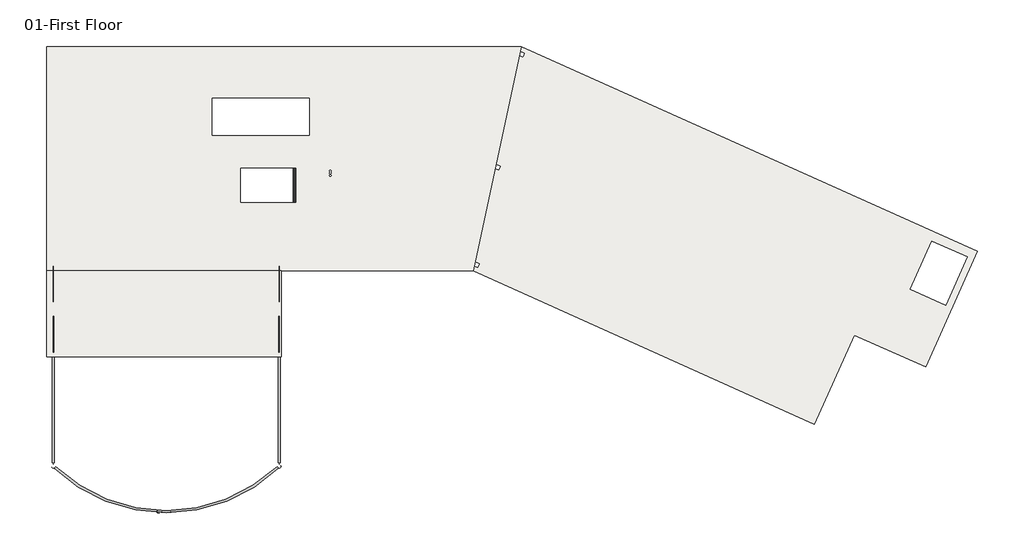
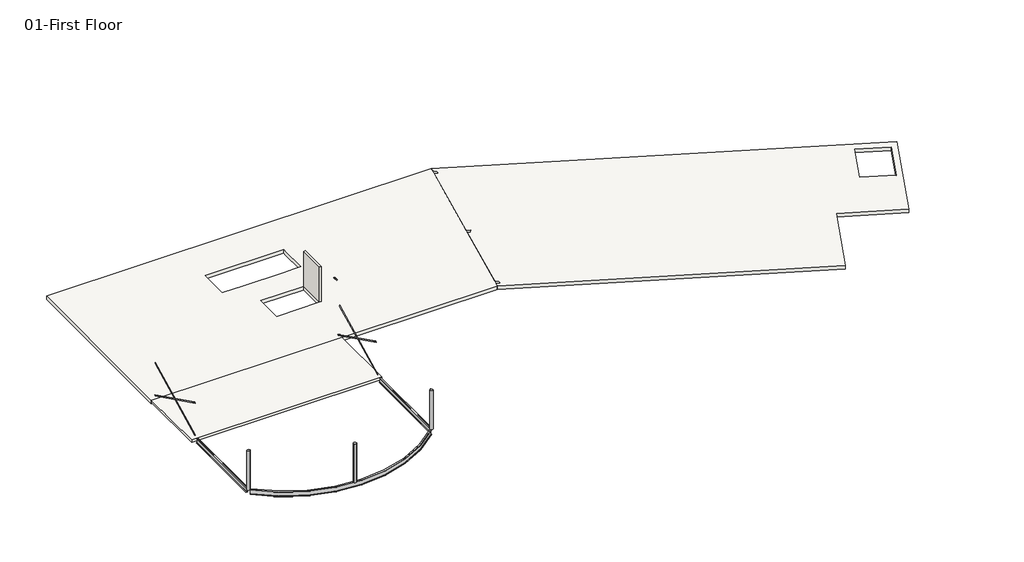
# One storey: 5 beams, 4 members, 3 columns, 3 slabs, 1 wall.
"""IFC4 building model written with IfcOpenShell, lengths in millimetres."""

import ifcopenshell
import ifcopenshell.guid

model = None  # the IFC model being written
_history = None  # IfcOwnerHistory: only IFC2X3 demands one
_inside = {}  # id of a spatial element -> (the spatial element, [elements in it])
_under = {}  # id of a project, library or spatial element -> (it, [spatial elements below it])
_declared = {}  # id of a project -> (the project, [libraries it declares])
_typed = {}  # id of a type object -> (the type object, [elements of that type])
_made_of = {}  # id of a material, layer set ... -> (it, [elements and type objects made of it])


def new_model(schema):
    """Start an empty IFC model of exactly this schema.

    Asked for "IFC4X3", IfcOpenShell would pick the latest addendum, in which some entities
    have other attributes; the version numbers below select the first issue.
    IFC2X3 requires an IfcOwnerHistory on every rooted entity: one is made here for all.
    """
    global model, _history
    if schema == "IFC4X3":
        model = ifcopenshell.file(schema_version=(4, 3, 0, 0))
    else:
        model = ifcopenshell.file(schema=schema)
    _inside.clear()
    _under.clear()
    _declared.clear()
    _typed.clear()
    _made_of.clear()
    _history = None
    if model.schema == "IFC2X3":
        org = make("IfcOrganization", Name="unknown")
        user = make(
            "IfcPersonAndOrganization",
            ThePerson=make("IfcPerson", FamilyName="unknown"),
            TheOrganization=org,
        )
        app = make(
            "IfcApplication",
            ApplicationDeveloper=org,
            Version="unknown",
            ApplicationFullName="unknown",
            ApplicationIdentifier="unknown",
        )
        _history = make(
            "IfcOwnerHistory",
            OwningUser=user,
            OwningApplication=app,
            ChangeAction="ADDED",
            CreationDate=0,
        )
    return model


def make(cls, **values):
    """One entity of the class cls with the attributes given. An attribute that is None is left unset."""
    return model.create_entity(
        cls, **{name: value for name, value in values.items() if value is not None}
    )


def rooted(cls, **values):
    """An entity with a GlobalId (a new one), such as an element, a storey or a relation."""
    return make(cls, GlobalId=ifcopenshell.guid.new(), OwnerHistory=_history, **values)


def si_unit(unit_type, name, prefix=None):
    """IfcSIUnit, for example si_unit("LENGTHUNIT", "METRE", prefix="MILLI")."""
    return make("IfcSIUnit", UnitType=unit_type, Prefix=prefix, Name=name)


def assignment(units):
    """IfcUnitAssignment: the units of a project."""
    return None if units is None else make("IfcUnitAssignment", Units=units)


def point(xyz):
    """IfcCartesianPoint."""
    return None if xyz is None else make("IfcCartesianPoint", Coordinates=xyz)


def direction(xyz):
    """IfcDirection."""
    return None if xyz is None else make("IfcDirection", DirectionRatios=xyz)


def frame(location, z_axis=None, x_axis=None):
    """IfcAxis2Placement3D, a coordinate frame: its origin and axes. An axis left out is left unset."""
    return make(
        "IfcAxis2Placement3D",
        Location=point(location),
        Axis=direction(z_axis),
        RefDirection=direction(x_axis),
    )


def frame_2d(location, x_axis=None):
    """IfcAxis2Placement2D, a coordinate frame in the plane: its origin and x axis."""
    return make(
        "IfcAxis2Placement2D", Location=point(location), RefDirection=direction(x_axis)
    )


def origin():
    """The frame at (0, 0, 0) with its axes left unset."""
    return frame((0.0, 0.0, 0.0))


def origin_2d():
    """The frame at (0, 0) in the plane with its x axis left unset."""
    return frame_2d((0.0, 0.0))


def place(relative_to, where):
    """IfcLocalPlacement: puts the frame where relative to a parent placement (None: the world)."""
    return make(
        "IfcLocalPlacement", PlacementRelTo=relative_to, RelativePlacement=where
    )


def context(
    kind, dimensions, precision=None, world=None, true_north=None, identifier=None
):
    """IfcGeometricRepresentationContext, for example the 3D "Model" context."""
    return make(
        "IfcGeometricRepresentationContext",
        ContextIdentifier=identifier,
        ContextType=kind,
        CoordinateSpaceDimension=dimensions,
        Precision=precision,
        WorldCoordinateSystem=world,
        TrueNorth=true_north,
    )


def project(units=None, contexts=None):
    """IfcProject with its units and contexts."""
    return rooted(
        "IfcProject",
        Name="project",
        RepresentationContexts=contexts,
        UnitsInContext=assignment(units),
    )


def spatial(cls, under=None, at=None, **own):
    """A site, building, storey or space (cls), placed at a placement, below another one or the project."""
    s = rooted(cls, ObjectPlacement=at, **own)
    if under is not None:
        _under.setdefault(under.id(), (under, []))[1].append(s)
    return s


def polyline(points):
    """IfcPolyline through the points."""
    return make("IfcPolyline", Points=[point(p) for p in points])


def circle_curve(where, radius):
    """IfcCircle in the frame where."""
    return make("IfcCircle", Position=where, Radius=radius)


def ellipse_curve(where, semi_axis1, semi_axis2):
    """IfcEllipse in the frame where."""
    return make(
        "IfcEllipse", Position=where, SemiAxis1=semi_axis1, SemiAxis2=semi_axis2
    )


def trimmed(basis, trim1, trim2, sense, master):
    """IfcTrimmedCurve: the piece of a basis curve between two trims."""
    return make(
        "IfcTrimmedCurve",
        BasisCurve=basis,
        Trim1=trim1,
        Trim2=trim2,
        SenseAgreement=sense,
        MasterRepresentation=master,
    )


def segment(curve, same_sense, transition):
    """IfcCompositeCurveSegment."""
    return make(
        "IfcCompositeCurveSegment",
        Transition=transition,
        SameSense=same_sense,
        ParentCurve=curve,
    )


def composite_curve(segments, self_intersect=None):
    """IfcCompositeCurve: segments joined end to end."""
    return make("IfcCompositeCurve", Segments=segments, SelfIntersect=self_intersect)


def outline(outer, holes=None, kind="AREA"):
    """IfcArbitraryClosedProfileDef: a profile drawn as a closed curve; with holes, ...WithVoids."""
    if holes is None:
        return make("IfcArbitraryClosedProfileDef", ProfileType=kind, OuterCurve=outer)
    return make(
        "IfcArbitraryProfileDefWithVoids",
        ProfileType=kind,
        OuterCurve=outer,
        InnerCurves=holes,
    )


def extrude(swept, where, along, depth):
    """IfcExtrudedAreaSolid: the profile swept, set in the frame where, extruded along a direction by depth."""
    return make(
        "IfcExtrudedAreaSolid",
        SweptArea=swept,
        Position=where,
        ExtrudedDirection=direction(along),
        Depth=depth,
    )


def faces_of(points, faces, orient=None, outer=None):
    """IfcFace entities. A face is a list of loops; a loop is a list of indices into points, from 0.

    orient and outer hold one flag for each loop. By default every Orientation is true, the
    first loop of a face is its IfcFaceOuterBound and the others are IfcFaceBound.
    """
    made = []
    for i, loops in enumerate(faces):
        bounds = []
        for j, loop in enumerate(loops):
            is_outer = j == 0 if outer is None else outer[i][j]
            bounds.append(
                make(
                    "IfcFaceOuterBound" if is_outer else "IfcFaceBound",
                    Bound=make("IfcPolyLoop", Polygon=[points[k] for k in loop]),
                    Orientation=True if orient is None else orient[i][j],
                )
            )
        made.append(make("IfcFace", Bounds=bounds))
    return made


def faceted_brep(points, faces, orient=None, outer=None, voids=None):
    """IfcFacetedBrep: a solid bounded by flat faces; with voids (closed shells), ...WithVoids."""
    shared = [point(p) for p in points]
    hull = make("IfcClosedShell", CfsFaces=faces_of(shared, faces, orient, outer))
    if voids is None:
        return make("IfcFacetedBrep", Outer=hull)
    return make(
        "IfcFacetedBrepWithVoids",
        Outer=hull,
        Voids=[
            make(cls, CfsFaces=faces_of(shared, fs, o, b)) for cls, fs, o, b in voids
        ],
    )


def shape(context_of_items, identifier, shape_type, items):
    """IfcShapeRepresentation: the items that make up one representation, for example the "Body"."""
    return make(
        "IfcShapeRepresentation",
        ContextOfItems=context_of_items,
        RepresentationIdentifier=identifier,
        RepresentationType=shape_type,
        Items=items,
    )


def source(mapping_origin, context_of_items, identifier, shape_type, items):
    """IfcRepresentationMap: a shape defined once, which mapped items show again and again."""
    return make(
        "IfcRepresentationMap",
        MappingOrigin=mapping_origin,
        MappedRepresentation=shape(context_of_items, identifier, shape_type, items),
    )


def transform(
    local_origin,
    x_axis=None,
    y_axis=None,
    z_axis=None,
    scale=None,
    scale2=None,
    scale3=None,
    uniform=True,
):
    """IfcCartesianTransformationOperator3D, or its non-uniform kind. x_axis, y_axis, z_axis: its Axis1, 2, 3."""
    if uniform:
        return make(
            "IfcCartesianTransformationOperator3D",
            Axis1=direction(x_axis),
            Axis2=direction(y_axis),
            LocalOrigin=point(local_origin),
            Scale=scale,
            Axis3=direction(z_axis),
        )
    return make(
        "IfcCartesianTransformationOperator3DnonUniform",
        Axis1=direction(x_axis),
        Axis2=direction(y_axis),
        LocalOrigin=point(local_origin),
        Scale=scale,
        Axis3=direction(z_axis),
        Scale2=scale2,
        Scale3=scale3,
    )


def mapped(mapping_source, mapping_target):
    """IfcMappedItem: shows the shape of a source again, moved by a transform."""
    return make(
        "IfcMappedItem", MappingSource=mapping_source, MappingTarget=mapping_target
    )


def made_of(thing, what):
    """Note that an element or type object is made of a material, layer set ...; save() writes the relation."""
    if what is not None:
        _made_of.setdefault(what.id(), (what, []))[1].append(thing)
    return thing


def element(
    cls,
    number,
    at=None,
    inside=None,
    cuts=None,
    type_object=None,
    material=None,
    context=None,
    identifier="Body",
    shape_type=None,
    held_by="IfcProductDefinitionShape",
    body=None,
    shapes=None,
    **own,
):
    """One element of the class cls, such as IfcWall. Its Tag is "e" and its number.

    at: its placement. inside: the storey or other place that contains it. cuts: it is an
    opening in that element (IfcRelVoidsElement). A single representation is given by context,
    identifier, shape_type and body (its items); several are given by shapes. held_by: the class
    of the entity that holds the representations. save() writes the other relations.
    """
    e = rooted(cls, Tag="e%d" % number, ObjectPlacement=at, **own)
    if body is not None:
        shapes = [shape(context, identifier, shape_type, body)]
    if shapes is not None:
        e.Representation = make(held_by, Representations=shapes)
    if inside is not None:
        _inside.setdefault(inside.id(), (inside, []))[1].append(e)
    if cuts is not None:
        rooted(
            "IfcRelVoidsElement", RelatingBuildingElement=cuts, RelatedOpeningElement=e
        )
    if type_object is not None:
        _typed.setdefault(type_object.id(), (type_object, []))[1].append(e)
    return made_of(e, material)


def aggregate(whole, parts):
    """IfcRelAggregates: a whole, such as a stair, and the parts it consists of."""
    return rooted("IfcRelAggregates", RelatingObject=whole, RelatedObjects=parts)


def save(model, path):
    """Write the relations noted so far, then the file.

    IfcRelAggregates (storeys below a building ...), IfcRelContainedInSpatialStructure (elements
    in a storey), IfcRelDefinesByType, IfcRelAssociatesMaterial and IfcRelDeclares: one each for
    every whole, place, type object, material and project.
    """
    for whole, parts in _under.values():
        aggregate(whole, parts)
    for where, things in _inside.values():
        rooted(
            "IfcRelContainedInSpatialStructure",
            RelatedElements=things,
            RelatingStructure=where,
        )
    for kind, things in _typed.values():
        rooted("IfcRelDefinesByType", RelatedObjects=things, RelatingType=kind)
    for what, things in _made_of.values():
        rooted("IfcRelAssociatesMaterial", RelatedObjects=things, RelatingMaterial=what)
    for by, libraries in _declared.values():
        rooted("IfcRelDeclares", RelatingContext=by, RelatedDefinitions=libraries)
    model.write(path)


def plane_surface(at):
    """IfcPlane: the flat surface through the origin of the frame at, square to its z axis."""
    return make("IfcPlane", Position=at)


def cylinder_surface(at, radius):
    """IfcCylindricalSurface: all points at the distance radius from the z axis of the frame at."""
    return make("IfcCylindricalSurface", Position=at, Radius=radius)


def revolved_surface(curve, axis_point, axis_direction):
    """IfcSurfaceOfRevolution: the curve turned about the line through axis_point along axis_direction."""
    return make(
        "IfcSurfaceOfRevolution",
        SweptCurve=make("IfcArbitraryOpenProfileDef", ProfileType="CURVE", Curve=curve),
        AxisPosition=make("IfcAxis1Placement", Location=point(axis_point), Axis=direction(axis_direction)),
    )


def advanced_brep(points, edges, surfaces, faces):
    """IfcAdvancedBrep: a solid bounded by faces that lie on surfaces and meet in shared edges.

    An edge is (start, end): straight between two places in points (the first is 0);
    or (start, end, curve); or (start, end, curve, False) where it runs against its curve.
    A face is (place in surfaces, loops), or (place, loops, False) where it looks against
    its surface's normal. A loop lists edges by number (the first is 1), with a minus sign
    where the edge is run from its end to its start. The first loop is the outer one.
    """
    corners = [point(p) for p in points]
    vertices = [make("IfcVertexPoint", VertexGeometry=c) for c in corners]
    made = []
    for start, end, *more in edges:
        made.append(
            make(
                "IfcEdgeCurve",
                EdgeStart=vertices[start],
                EdgeEnd=vertices[end],
                EdgeGeometry=more[0] if more else make("IfcPolyline", Points=[corners[start], corners[end]]),
                SameSense=more[1] if len(more) > 1 else True,
            )
        )
    hull = []
    for where, loops, *sense in faces:
        bounds = []
        for j, loop in enumerate(loops):
            ring = [make("IfcOrientedEdge", EdgeElement=made[abs(k) - 1], Orientation=k > 0) for k in loop]
            bounds.append(
                make(
                    "IfcFaceOuterBound" if j == 0 else "IfcFaceBound",
                    Bound=make("IfcEdgeLoop", EdgeList=ring),
                    Orientation=True,
                )
            )
        hull.append(make("IfcAdvancedFace", Bounds=bounds, FaceSurface=surfaces[where], SameSense=sense[0] if sense else True))
    return make("IfcAdvancedBrep", Outer=make("IfcClosedShell", CfsFaces=hull))


def w_shapes_w16x26_79f6515c(model_context):
    return source(origin(), model_context, "Body", "AdvancedBrep", [
        advanced_brep(
        [(10904.3196672, -10235.606818, -190.627), (10847.9454252, -10238.792837, -190.627), (10837.7508929, -10239.3689862, -180.4162), (10837.7508929, -10239.3689862, 180.4162), (10847.9454252, -10238.792837, 190.627), (10904.3196672, -10235.606818, 190.627), (10904.3196672, -10235.606818, 199.39), (10764.8422353, -10243.4894562, 199.39), (10764.8422353, -10243.4894562, 190.627), (10821.2164773, -10240.3034372, 190.627), (10831.4110096, -10239.727288, 180.4162), (10831.4110096, -10239.727288, -180.4162), (10821.2164773, -10240.3034372, -190.627), (10764.8422353, -10243.4894562, -190.627), (10764.8422353, -10243.4894562, -199.39), (10904.3196672, -10235.606818, -199.39), (126.5000868, 69.1173861, -190.627), (126.5000868, 69.1173861, -199.39), (124.8820209, -70.5732431, -199.39), (124.8820209, -70.5732431, -190.627), (125.5360137, -14.1128306, -190.627), (125.6542796, -3.9027155, -180.4162), (125.6542796, -3.9027155, 180.4162), (125.5360137, -14.1128306, 190.627), (124.8820209, -70.5732431, 190.627), (124.8820209, -70.5732431, 199.39), (126.5000868, 69.1173861, 199.39), (126.5000868, 69.1173861, 190.627), (125.846094, 12.6569736, 190.627), (125.7278281, 2.4468585, 180.4162), (125.7278281, 2.4468585, -180.4162), (125.846094, 12.6569736, -190.627)],
        [
            (0, 1),
            (1, 2, circle_curve(frame((10847.9454252, -10238.792837, -180.4162), z_axis=(-0.05642546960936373, 0.9984068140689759, 0.0), x_axis=(-0.9984068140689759, -0.05642546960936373, 0.0)), 10.2108)),
            (2, 3),
            (3, 4, circle_curve(frame((10847.9454252, -10238.792837, 180.4162), z_axis=(-0.05642546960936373, 0.9984068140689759, 0.0), x_axis=(-0.9984068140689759, -0.05642546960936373, 0.0)), 10.2108)),
            (4, 5),
            (5, 6),
            (6, 7),
            (7, 8),
            (8, 9),
            (9, 10, circle_curve(frame((10821.2164773, -10240.3034372, 180.4162), z_axis=(-0.05642546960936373, 0.9984068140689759, 0.0), x_axis=(-0.9984068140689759, -0.05642546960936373, 0.0)), 10.2108)),
            (10, 11),
            (11, 12, circle_curve(frame((10821.2164773, -10240.3034372, -180.4162), z_axis=(-0.05642546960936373, 0.9984068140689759, 0.0), x_axis=(-0.9984068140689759, -0.05642546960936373, 0.0)), 10.2108)),
            (12, 13),
            (13, 14),
            (14, 15),
            (15, 0),
            (16, 17),
            (17, 18),
            (18, 19),
            (19, 20),
            (20, 21, circle_curve(frame((125.5360137, -14.1128306, -180.4162), z_axis=(0.9999329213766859, -0.011582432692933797, 0.0), x_axis=(-0.011582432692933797, -0.9999329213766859, 0.0)), 10.2108)),
            (21, 22),
            (22, 23, circle_curve(frame((125.5360137, -14.1128306, 180.4162), z_axis=(0.9999329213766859, -0.011582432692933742, 0.0), x_axis=(-0.011582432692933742, -0.9999329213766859, 0.0)), 10.2108)),
            (23, 24),
            (24, 25),
            (25, 26),
            (26, 27),
            (27, 28),
            (28, 29, circle_curve(frame((125.846094, 12.6569736, 180.4162), z_axis=(0.9999329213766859, -0.011582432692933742, 0.0), x_axis=(-0.011582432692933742, -0.9999329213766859, 0.0)), 10.2108)),
            (29, 30),
            (30, 31, circle_curve(frame((125.846094, 12.6569736, -180.4162), z_axis=(0.9999329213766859, -0.011582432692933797, 0.0), x_axis=(-0.011582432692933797, -0.9999329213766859, 0.0)), 10.2108)),
            (31, 16),
            (0, 16, circle_curve(frame((0.0, -10851.8699979, -190.627), z_axis=(0.0, 0.0, 1.0), x_axis=(-0.7227923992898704, 0.691065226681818, 0.0)), 10921.7199979)),
            (31, 1, circle_curve(frame((0.0, -10851.8699979, -190.627), z_axis=(0.0, 0.0, -1.0), x_axis=(-0.7227923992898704, 0.691065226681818, 0.0)), 10865.2557979)),
            (30, 2, circle_curve(frame((0.0, -10851.8699979, -180.4162), z_axis=(0.0, 0.0, -1.0), x_axis=(-0.7227923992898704, 0.691065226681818, 0.0)), 10855.0449979)),
            (29, 3, circle_curve(frame((0.0, -10851.8699979, 180.4162), z_axis=(0.0, 0.0, -1.0), x_axis=(-0.7227923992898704, 0.691065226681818, 0.0)), 10855.0449979)),
            (28, 4, circle_curve(frame((0.0, -10851.8699979, 190.627), z_axis=(0.0, 0.0, -1.0), x_axis=(-0.7227923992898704, 0.691065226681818, 0.0)), 10865.2557979)),
            (27, 5, circle_curve(frame((0.0, -10851.8699979, 190.627), z_axis=(0.0, 0.0, -1.0), x_axis=(-0.7227923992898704, 0.691065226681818, 0.0)), 10921.7199979)),
            (26, 6, circle_curve(frame((0.0, -10851.8699979, 199.39), z_axis=(0.0, 0.0, -1.0), x_axis=(-0.7227923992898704, 0.691065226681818, 0.0)), 10921.7199979)),
            (25, 7, circle_curve(frame((0.0, -10851.8699979, 199.39), z_axis=(0.0, 0.0, -1.0), x_axis=(-0.7227923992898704, 0.691065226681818, 0.0)), 10782.0199979)),
            (24, 8, circle_curve(frame((0.0, -10851.8699979, 190.627), z_axis=(0.0, 0.0, -1.0), x_axis=(-0.7227923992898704, 0.691065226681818, 0.0)), 10782.0199979)),
            (23, 9, circle_curve(frame((0.0, -10851.8699979, 190.627), z_axis=(0.0, 0.0, -1.0), x_axis=(-0.7227923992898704, 0.691065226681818, 0.0)), 10838.4841979)),
            (22, 10, circle_curve(frame((0.0, -10851.8699979, 180.4162), z_axis=(0.0, 0.0, -1.0), x_axis=(-0.7227923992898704, 0.691065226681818, 0.0)), 10848.6949979)),
            (21, 11, circle_curve(frame((0.0, -10851.8699979, -180.4162), z_axis=(0.0, 0.0, -1.0), x_axis=(-0.7227923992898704, 0.691065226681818, 0.0)), 10848.6949979)),
            (20, 12, circle_curve(frame((0.0, -10851.8699979, -190.627), z_axis=(0.0, 0.0, -1.0), x_axis=(-0.7227923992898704, 0.691065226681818, 0.0)), 10838.4841979)),
            (19, 13, circle_curve(frame((0.0, -10851.8699979, -190.627), z_axis=(0.0, 0.0, -1.0), x_axis=(-0.7227923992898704, 0.691065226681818, 0.0)), 10782.0199979)),
            (18, 14, circle_curve(frame((0.0, -10851.8699979, -199.39), z_axis=(0.0, 0.0, -1.0), x_axis=(-0.7227923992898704, 0.691065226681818, 0.0)), 10782.0199979)),
            (17, 15, circle_curve(frame((0.0, -10851.8699979, -199.39), z_axis=(0.0, 0.0, -1.0), x_axis=(-0.7227923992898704, 0.691065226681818, 0.0)), 10921.7199979)),
        ],
        [
            plane_surface(frame((10834.5809513, -10239.5481371, 0.0), z_axis=(0.05642546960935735, -0.9984068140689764, 0.0), x_axis=(0.0, 0.0, 1.0))),
            plane_surface(frame((125.6910538, -0.7279285, 0.0), z_axis=(-0.9999329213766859, 0.011582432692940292, 0.0), x_axis=(0.0, 0.0, 1.0))),
            plane_surface(frame((0.0, -10851.8699979, -190.627), z_axis=(0.0, 0.0, 1.0), x_axis=(-0.7227923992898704, 0.691065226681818, 0.0))),
            revolved_surface(trimmed(ellipse_curve(frame((-7853.324307, -3343.269537, -180.4162), z_axis=(0.6910652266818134, 0.7227923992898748, 0.0), x_axis=(0.7227923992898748, -0.6910652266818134, 0.0)), 10.2108, 10.2108), [point((-7845.9440184, -3350.3258658, -180.4162))], [point((-7853.324307, -3343.269537, -190.627))], True, "CARTESIAN"), (0.0, -10851.8699979, 0.0), (0.0, 0.0, -1.0)),
            cylinder_surface(frame((0.0, -10851.8699979, 0.0), z_axis=(0.0, 0.0, -1.0), x_axis=(-0.7227923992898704, 0.691065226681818, 0.0)), 10855.0449979),
            revolved_surface(trimmed(ellipse_curve(frame((-7853.324307, -3343.269537, 180.4162), z_axis=(0.6910652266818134, 0.7227923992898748, 0.0), x_axis=(0.7227923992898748, -0.6910652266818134, 0.0)), 10.2108, 10.2108), [point((-7853.324307, -3343.269537, 190.627))], [point((-7845.9440184, -3350.3258658, 180.4162))], True, "CARTESIAN"), (0.0, -10851.8699979, 0.0), (0.0, 0.0, -1.0)),
            plane_surface(frame((0.0, -10851.8699979, 190.627), z_axis=(0.0, 0.0, -1.0), x_axis=(-0.7227923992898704, 0.691065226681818, 0.0))),
            cylinder_surface(frame((0.0, -10851.8699979, 0.0), z_axis=(0.0, 0.0, -1.0), x_axis=(-0.7227923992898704, 0.691065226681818, 0.0)), 10921.7199979),
            plane_surface(frame((0.0, -10851.8699979, 199.39), z_axis=(0.0, 0.0, 1.0), x_axis=(-0.7227923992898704, 0.691065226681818, 0.0))),
            revolved_surface(polyline([(-7793.162103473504, -3400.7909039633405, 190.627), (-7793.162103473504, -3400.7909039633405, 199.39)]), (0.0, -10851.8699979, 0.0), (0.0, 0.0, -1.0)),
            revolved_surface(trimmed(ellipse_curve(frame((-7833.973998, -3361.7704588, 180.4162), z_axis=(0.6910652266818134, 0.7227923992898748, 0.0), x_axis=(0.7227923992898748, -0.6910652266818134, 0.0)), 10.2108, 10.2108), [point((-7841.3542867, -3354.71413, 180.4162))], [point((-7833.973998, -3361.7704588, 190.627))], True, "CARTESIAN"), (0.0, -10851.8699979, 0.0), (0.0, 0.0, -1.0)),
            revolved_surface(polyline([(-7841.354286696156, -3354.7141299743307, -180.4162), (-7841.354286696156, -3354.7141299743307, 180.4162)]), (0.0, -10851.8699979, 0.0), (0.0, 0.0, -1.0)),
            revolved_surface(trimmed(ellipse_curve(frame((-7833.973998, -3361.7704588, -180.4162), z_axis=(0.6910652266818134, 0.7227923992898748, 0.0), x_axis=(0.7227923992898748, -0.6910652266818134, 0.0)), 10.2108, 10.2108), [point((-7833.973998, -3361.7704588, -190.627))], [point((-7841.3542867, -3354.71413, -180.4162))], True, "CARTESIAN"), (0.0, -10851.8699979, 0.0), (0.0, 0.0, -1.0)),
            revolved_surface(polyline([(-7793.162103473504, -3400.7909039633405, -199.39), (-7793.162103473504, -3400.7909039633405, -190.627)]), (0.0, -10851.8699979, 0.0), (0.0, 0.0, -1.0)),
            plane_surface(frame((0.0, -10851.8699979, -199.39), z_axis=(0.0, 0.0, -1.0), x_axis=(-0.7227923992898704, 0.691065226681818, 0.0))),
        ],
        [
            (0, [[1, 2, 3, 4, 5, 6, 7, 8, 9, 10, 11, 12, 13, 14, 15, 16]]),
            (1, [[17, 18, 19, 20, 21, 22, 23, 24, 25, 26, 27, 28, 29, 30, 31, 32]]),
            (2, [[-1, 33, -32, 34]]),
            (3, [[-2, -34, -31, 35]]),
            (4, [[-3, -35, -30, 36]]),
            (5, [[-4, -36, -29, 37]]),
            (6, [[-5, -37, -28, 38]]),
            (7, [[-6, -38, -27, 39]]),
            (8, [[-7, -39, -26, 40]]),
            (9, [[-8, -40, -25, 41]]),
            (6, [[-9, -41, -24, 42]]),
            (10, [[-10, -42, -23, 43]]),
            (11, [[-11, -43, -22, 44]]),
            (12, [[-12, -44, -21, 45]]),
            (2, [[-13, -45, -20, 46]]),
            (13, [[-14, -46, -19, 47]]),
            (14, [[-15, -47, -18, 48]]),
            (7, [[-16, -48, -17, -33]]),
        ],
    ),
    ])


def w_shapes_w16x26_bcd4aa5d(model_context):
    return source(origin(), model_context, "Body", "SweptSolid", [
        extrude(outline(composite_curve([segment(polyline([(69.85, -190.627), (69.85, -199.39), (-69.85, -199.39), (-69.85, -190.627), (-13.3858, -190.627)]), True, "CONTINUOUS"), segment(trimmed(circle_curve(frame_2d((-13.3858, -180.4162)), 10.2108), [point((-13.3858, -190.627))], [point((-3.175, -180.4162))], True, "CARTESIAN"), True, "CONTINUOUS"), segment(polyline([(-3.175, -180.4162), (-3.175, 180.4162)]), True, "CONTINUOUS"), segment(trimmed(circle_curve(frame_2d((-13.3858, 180.4162)), 10.2108), [point((-3.175, 180.4162))], [point((-13.3858, 190.627))], True, "CARTESIAN"), True, "CONTINUOUS"), segment(polyline([(-13.3858, 190.627), (-69.85, 190.627), (-69.85, 199.39), (69.85, 199.39), (69.85, 190.627), (13.3858, 190.627)]), True, "CONTINUOUS"), segment(trimmed(circle_curve(frame_2d((13.3858, 180.4162)), 10.2108), [point((13.3858, 190.627))], [point((3.175, 180.4162))], True, "CARTESIAN"), True, "CONTINUOUS"), segment(polyline([(3.175, 180.4162), (3.175, -180.4162)]), True, "CONTINUOUS"), segment(trimmed(circle_curve(frame_2d((13.3858, -180.4162)), 10.2108), [point((3.175, -180.4162))], [point((13.3858, -190.627))], True, "CARTESIAN"), True, "CONTINUOUS"), segment(polyline([(13.3858, -190.627), (69.85, -190.627)]), True, "CONTINUOUS")], self_intersect=False)), frame((-3584.829, 0.0, 0.0), z_axis=(1.0, 0.0, 0.0), x_axis=(0.0, 1.0, 0.0)), (0.0, 0.0, 1.0), 7052.8323827),
    ])


def w_shapes_w16x26_ccd9a1e8(model_context):
    return source(origin(), model_context, "Body", "SweptSolid", [
        extrude(outline(composite_curve([segment(polyline([(69.85, -190.627), (69.85, -199.39), (-69.85, -199.39), (-69.85, -190.627), (-13.3858, -190.627)]), True, "CONTINUOUS"), segment(trimmed(circle_curve(frame_2d((-13.3858, -180.4162)), 10.2108), [point((-13.3858, -190.627))], [point((-3.175, -180.4162))], True, "CARTESIAN"), True, "CONTINUOUS"), segment(polyline([(-3.175, -180.4162), (-3.175, 180.4162)]), True, "CONTINUOUS"), segment(trimmed(circle_curve(frame_2d((-13.3858, 180.4162)), 10.2108), [point((-3.175, 180.4162))], [point((-13.3858, 190.627))], True, "CARTESIAN"), True, "CONTINUOUS"), segment(polyline([(-13.3858, 190.627), (-69.85, 190.627), (-69.85, 199.39), (69.85, 199.39), (69.85, 190.627), (13.3858, 190.627)]), True, "CONTINUOUS"), segment(trimmed(circle_curve(frame_2d((13.3858, 180.4162)), 10.2108), [point((13.3858, 190.627))], [point((3.175, 180.4162))], True, "CARTESIAN"), True, "CONTINUOUS"), segment(polyline([(3.175, 180.4162), (3.175, -180.4162)]), True, "CONTINUOUS"), segment(trimmed(circle_curve(frame_2d((13.3858, -180.4162)), 10.2108), [point((3.175, -180.4162))], [point((13.3858, -190.627))], True, "CARTESIAN"), True, "CONTINUOUS"), segment(polyline([(13.3858, -190.627), (69.85, -190.627)]), True, "CONTINUOUS")], self_intersect=False)), frame((-3468.0033827, 0.0, 0.0), z_axis=(1.0, 0.0, 0.0), x_axis=(0.0, 1.0, 0.0)), (0.0, 0.0, 1.0), 7052.8323827),
    ])


def hss_round_column_hss10x_500_6a2b31e4(model_context):
    return source(origin(), model_context, "Body", "SweptSolid", [
        extrude(outline(composite_curve([segment(trimmed(circle_curve(origin_2d(), 127.0), [point((-127.0, 0.0))], [point((127.0, 0.0))], False, "CARTESIAN"), True, "CONTINUOUS"), segment(trimmed(circle_curve(origin_2d(), 127.0), [point((127.0, 0.0))], [point((-127.0, 0.0))], False, "CARTESIAN"), True, "CONTINUOUS")], self_intersect=False), holes=[composite_curve([segment(trimmed(circle_curve(origin_2d(), 114.3), [point((-114.3, 0.0))], [point((114.3, 0.0))], True, "CARTESIAN"), True, "CONTINUOUS"), segment(trimmed(circle_curve(origin_2d(), 114.3), [point((114.3, 0.0))], [point((-114.3, 0.0))], True, "CARTESIAN"), True, "CONTINUOUS")], self_intersect=False)]), frame((0.0, 0.0, 3352.8), z_axis=(0.0, 0.0, 1.0), x_axis=(1.0, 0.0, 0.0)), (0.0, 0.0, 1.0), 3352.8),
    ])


def flat_bars_fl_3_8x4_8cd429a4(model_context):
    return source(origin(), model_context, "Body", "SweptSolid", [
        extrude(outline(polyline([(-3179.9857662, -4.7625), (-3179.9857662, 4.7625), (2894.2044526, 4.7625), (2894.2044526, -4.7625), (-3179.9857662, -4.7625)])), frame((0.0, 0.0, -50.8), z_axis=(0.0, 0.0, 1.0), x_axis=(1.0, 0.0, 0.0)), (0.0, 0.0, 1.0), 101.6),
    ])


def flat_bars_fl_3_8x4_80db56d9(model_context):
    return source(origin(), model_context, "Body", "SweptSolid", [
        extrude(outline(polyline([(-3147.7730219, -4.7625), (-3147.7730219, 4.7625), (2894.2044526, 4.7625), (2894.2044526, -4.7625), (-3147.7730219, -4.7625)])), frame((0.0, 0.0, -50.8), z_axis=(0.0, 0.0, 1.0), x_axis=(1.0, 0.0, 0.0)), (0.0, 0.0, 1.0), 101.6),
    ])


def flat_bars_fl_3_8x4_0a321cdc(model_context):
    return source(origin(), model_context, "Body", "SweptSolid", [
        extrude(outline(polyline([(-3179.9857662, 4.7625), (3147.7730219, 4.7625), (3147.7730219, -4.7625), (-3179.9857662, -4.7625), (-3179.9857662, 4.7625)])), frame((0.0, 0.0, -50.8), z_axis=(0.0, 0.0, 1.0), x_axis=(1.0, 0.0, 0.0)), (0.0, 0.0, 1.0), 101.6),
    ])


def flat_bars_fl_3_8x4_c289e923(model_context):
    return source(origin(), model_context, "Body", "SweptSolid", [
        extrude(outline(polyline([(-3147.7730219, 4.7625), (3179.9857662, 4.7625), (3179.9857662, -4.7625), (-3147.7730219, -4.7625), (-3147.7730219, 4.7625)])), frame((0.0, 0.0, -50.8), z_axis=(0.0, 0.0, 1.0), x_axis=(1.0, 0.0, 0.0)), (0.0, 0.0, 1.0), 101.6),
    ])


model = new_model("IFC4")

# Units and contexts
model_context = context("Model", 3, world=origin())
ifc_project = project(units=[si_unit("LENGTHUNIT", "METRE", prefix="MILLI")], contexts=[model_context])

# Site, building, storey
site = spatial("IfcSite", under=ifc_project)
building = spatial("IfcBuilding", under=site)
storey = spatial("IfcBuildingStorey", under=building, Name="01-First Floor", Elevation=3352.8)

# Beams
placement = place(None, origin())
element("IfcBeam", 1, ObjectType="Concrete-Rectangular Beam : 12 x 24", at=placement, inside=storey, context=model_context, shape_type="SweptSolid", body=[
    extrude(outline(polyline([(152.4, -14147.8), (152.4, -13843.0), (6858.0, -13843.0), (6858.0, -14147.8), (152.4, -14147.8)])), frame((0.0, 0.0, 2743.2), z_axis=(0.0, 0.0, 1.0), x_axis=(1.0, 0.0, 0.0)), (0.0, 0.0, 1.0), 304.8),
])
element("IfcBeam", 2, ObjectType="Concrete-Rectangular Beam : 12 x 24", at=placement, inside=storey, context=model_context, shape_type="SweptSolid", body=[
    extrude(outline(polyline([(14846.3, -13843.0), (14846.3, -14147.8), (7162.8, -14147.8), (7162.8, -13843.0), (14846.3, -13843.0)])), frame((0.0, 0.0, 2743.2), z_axis=(0.0, 0.0, 1.0), x_axis=(1.0, 0.0, 0.0)), (0.0, 0.0, 1.0), 304.8),
])
w_shapes_w16x26_shape = w_shapes_w16x26_79f6515c(model_context)
element("IfcBeam", 3, ObjectType="W Shapes : W16X26", at=placement, inside=storey, context=model_context, shape_type="MappedRepresentation", body=[
    mapped(w_shapes_w16x26_shape, transform((14998.7, -27444.7, 3153.41), x_axis=(-0.7227923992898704, -0.691065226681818, 0.0), y_axis=(0.691065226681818, -0.7227923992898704, 0.0), z_axis=(0.0, 0.0, 1.0))),
])
w_shapes_w16x26_2_shape = w_shapes_w16x26_bcd4aa5d(model_context)
element("IfcBeam", 4, ObjectType="W Shapes : W16X26", at=placement, inside=storey, context=model_context, shape_type="MappedRepresentation", body=[
    mapped(w_shapes_w16x26_2_shape, transform((14998.7, -23723.6, 3153.41), x_axis=(0.0, -1.0, 0.0), y_axis=(1.0, 0.0, 0.0), z_axis=(0.0, 0.0, 1.0))),
])
w_shapes_w16x26_3_shape = w_shapes_w16x26_ccd9a1e8(model_context)
element("IfcBeam", 5, ObjectType="W Shapes : W16X26", at=placement, inside=storey, context=model_context, shape_type="MappedRepresentation", body=[
    mapped(w_shapes_w16x26_3_shape, transform((0.0, -23723.6, 3153.41), x_axis=(0.0, 1.0, 0.0), y_axis=(-1.0, 0.0, 0.0), z_axis=(0.0, 0.0, 1.0))),
])

# Columns
hss_round_column_hss10x_500_shape = hss_round_column_hss10x_500_6a2b31e4(model_context)
element("IfcColumn", 6, ObjectType="HSS Round-Column : HSS10X.500", at=placement, inside=storey, context=model_context, shape_type="MappedRepresentation", body=[
    mapped(hss_round_column_hss10x_500_shape, transform((0.0, -27444.7, 0.0), x_axis=(1.0, 0.0, 0.0), y_axis=(0.0, 1.0, 0.0), z_axis=(0.0, 0.0, 1.0))),
])
element("IfcColumn", 7, ObjectType="HSS Round-Column : HSS10X.500", at=placement, inside=storey, context=model_context, shape_type="MappedRepresentation", body=[
    mapped(hss_round_column_hss10x_500_shape, transform((7010.4, -30441.9, 0.0), x_axis=(1.0, 0.0, 0.0), y_axis=(0.0, 1.0, 0.0), z_axis=(0.0, 0.0, 1.0))),
])
element("IfcColumn", 8, ObjectType="HSS Round-Column : HSS10X.500", at=placement, inside=storey, context=model_context, shape_type="MappedRepresentation", body=[
    mapped(hss_round_column_hss10x_500_shape, transform((14998.7, -27444.7, 0.0), x_axis=(1.0, 0.0, 0.0), y_axis=(0.0, 1.0, 0.0), z_axis=(0.0, 0.0, 1.0))),
])

# Members
flat_bars_fl_3_8x4_shape = flat_bars_fl_3_8x4_8cd429a4(model_context)
element("IfcMember", 9, ObjectType="Flat Bars : FL 3/8X4", at=placement, inside=storey, context=model_context, shape_type="MappedRepresentation", body=[
    mapped(flat_bars_fl_3_8x4_shape, transform((14989.175, -16998.95, 4850.13), x_axis=(0.0, 0.8949563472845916, 0.44615371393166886), y_axis=(-1.0, 0.0, 0.0), z_axis=(0.0, -0.44615371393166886, 0.8949563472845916))),
])
flat_bars_fl_3_8x4_2_shape = flat_bars_fl_3_8x4_80db56d9(model_context)
element("IfcMember", 10, ObjectType="Flat Bars : FL 3/8X4", at=placement, inside=storey, context=model_context, shape_type="MappedRepresentation", body=[
    mapped(flat_bars_fl_3_8x4_2_shape, transform((14998.7, -16998.95, 4850.13), x_axis=(0.0, -0.8949563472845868, 0.4461537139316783), y_axis=(1.0, 0.0, 0.0), z_axis=(0.0, 0.4461537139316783, 0.8949563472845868))),
])
flat_bars_fl_3_8x4_3_shape = flat_bars_fl_3_8x4_0a321cdc(model_context)
element("IfcMember", 11, ObjectType="Flat Bars : FL 3/8X4", at=placement, inside=storey, context=model_context, shape_type="MappedRepresentation", body=[
    mapped(flat_bars_fl_3_8x4_3_shape, transform((9.525, -16998.95, 4850.13), x_axis=(0.0, 0.8949563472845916, 0.44615371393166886), y_axis=(-1.0, 0.0, 0.0), z_axis=(0.0, -0.44615371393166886, 0.8949563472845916))),
])
flat_bars_fl_3_8x4_4_shape = flat_bars_fl_3_8x4_c289e923(model_context)
element("IfcMember", 12, ObjectType="Flat Bars : FL 3/8X4", at=placement, inside=storey, context=model_context, shape_type="MappedRepresentation", body=[
    mapped(flat_bars_fl_3_8x4_4_shape, transform((0.0, -16998.95, 4850.13), x_axis=(0.0, -0.894956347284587, 0.44615371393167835), y_axis=(1.0, 0.0, 0.0), z_axis=(0.0, 0.44615371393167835, 0.894956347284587))),
])

# Slabs
element("IfcSlab", 13, ObjectType="RC Composite Slab 8\"", at=placement, inside=storey, context=model_context, shape_type="SweptSolid", body=[
    extrude(outline(polyline([(15151.1, -20154.9), (-457.2, -20154.9), (-457.2, -14452.6), (15151.1, -14452.6), (15151.1, -20154.9)])), frame((0.0, 0.0, 3149.6), z_axis=(0.0, 0.0, 1.0), x_axis=(1.0, 0.0, 0.0)), (0.0, 0.0, 1.0), 203.2),
])
element("IfcSlab", 14, ObjectType="RC Slab 12\"", at=placement, inside=storey, context=model_context, shape_type="AdvancedBrep", body=[
    advanced_brep(
    [(-457.2, 457.2, 3048.0), (31098.7387393, 457.2, 3048.0), (27903.7815965, -14452.6, 3048.0), (-457.2, -14452.6, 3048.0), (17005.3, -2984.5, 3048.0), (10553.7, -2984.5, 3048.0), (10553.7, -5422.9, 3048.0), (10858.5, -5422.9, 3048.0), (17005.3, -5422.9, 3048.0), (17005.3, -5168.9, 3048.0), (17005.3, -3289.3, 3048.0), (15951.2, -7633.3081651, 3048.0), (12446.0, -7633.3081651, 3048.0), (12446.0, -9893.3, 3048.0), (15951.2, -9893.3, 3048.0), (18347.8020543, -8109.4381113, 3048.0), (18449.4020543, -8109.4381113, 3048.0), (18347.8020543, -7957.0381113, 3048.0), (18449.4020543, -7957.0381113, 3048.0), (18347.8020543, -7804.6381113, 3048.0), (18449.4020543, -7804.6381113, 3048.0), (31098.7387393, 457.2, 3352.8), (-457.2, 457.2, 3352.8), (-457.2, -14452.6, 3352.8), (15151.1, -14452.6, 3352.8), (27903.7815965, -14452.6, 3352.8), (10553.7, -2984.5, 3352.8), (17005.3, -2984.5, 3352.8), (17005.3, -3289.3, 3352.8), (17005.3, -5168.9, 3352.8), (17005.3, -5422.9, 3352.8), (16522.7, -5422.9, 3352.8), (15608.3, -5422.9, 3352.8), (14389.1, -5422.9, 3352.8), (13474.7, -5422.9, 3352.8), (12242.8, -5422.9, 3352.8), (11328.4, -5422.9, 3352.8), (10553.7, -5422.9, 3352.8), (12446.0, -7633.3081651, 3352.8), (15951.2, -7633.3081651, 3352.8), (15951.2, -9893.3, 3352.8), (12446.0, -9893.3, 3352.8), (18449.4020543, -8109.4381113, 3352.8), (18347.8020543, -8109.4381113, 3352.8), (18449.4020543, -7957.0381113, 3352.8), (18347.8020543, -7957.0381113, 3352.8), (18449.4020543, -7804.6381113, 3352.8), (18347.8020543, -7804.6381113, 3352.8), (-457.2, -14452.6, 3149.6)],
    [
        (0, 1),
        (1, 2),
        (2, 3),
        (3, 0),
        (4, 5),
        (5, 6),
        (6, 7),
        (7, 8),
        (8, 9),
        (9, 10),
        (10, 4),
        (11, 12),
        (12, 13),
        (13, 14),
        (14, 11),
        (15, 16, circle_curve(frame((18398.6020543, -8109.4381113, 3048.0), z_axis=(0.0, 0.0, 1.0), x_axis=(1.0, 0.0, 0.0)), 50.8)),
        (16, 15, circle_curve(frame((18398.6020543, -8109.4381113, 3048.0), z_axis=(0.0, 0.0, 1.0), x_axis=(1.0, 0.0, 0.0)), 50.8)),
        (17, 18, circle_curve(frame((18398.6020543, -7957.0381113, 3048.0), z_axis=(0.0, 0.0, 1.0), x_axis=(1.0, 0.0, 0.0)), 50.8)),
        (18, 17, circle_curve(frame((18398.6020543, -7957.0381113, 3048.0), z_axis=(0.0, 0.0, 1.0), x_axis=(1.0, 0.0, 0.0)), 50.8)),
        (19, 20, circle_curve(frame((18398.6020543, -7804.6381113, 3048.0), z_axis=(0.0, 0.0, 1.0), x_axis=(1.0, 0.0, 0.0)), 50.8)),
        (20, 19, circle_curve(frame((18398.6020543, -7804.6381113, 3048.0), z_axis=(0.0, 0.0, 1.0), x_axis=(1.0, 0.0, 0.0)), 50.8)),
        (21, 22),
        (22, 23),
        (23, 24),
        (24, 25),
        (25, 21),
        (26, 27),
        (27, 28),
        (28, 29),
        (29, 30),
        (30, 31),
        (31, 32),
        (32, 33),
        (33, 34),
        (34, 35),
        (35, 36),
        (36, 37),
        (37, 26),
        (38, 39),
        (39, 40),
        (40, 41),
        (41, 38),
        (42, 43, circle_curve(frame((18398.6020543, -8109.4381113, 3352.8), z_axis=(0.0, 0.0, -1.0), x_axis=(1.0, 0.0, 0.0)), 50.8)),
        (43, 42, circle_curve(frame((18398.6020543, -8109.4381113, 3352.8), z_axis=(0.0, 0.0, -1.0), x_axis=(1.0, 0.0, 0.0)), 50.8)),
        (44, 45, circle_curve(frame((18398.6020543, -7957.0381113, 3352.8), z_axis=(0.0, 0.0, -1.0), x_axis=(1.0, 0.0, 0.0)), 50.8)),
        (45, 44, circle_curve(frame((18398.6020543, -7957.0381113, 3352.8), z_axis=(0.0, 0.0, -1.0), x_axis=(1.0, 0.0, 0.0)), 50.8)),
        (46, 47, circle_curve(frame((18398.6020543, -7804.6381113, 3352.8), z_axis=(0.0, 0.0, -1.0), x_axis=(1.0, 0.0, 0.0)), 50.8)),
        (47, 46, circle_curve(frame((18398.6020543, -7804.6381113, 3352.8), z_axis=(0.0, 0.0, -1.0), x_axis=(1.0, 0.0, 0.0)), 50.8)),
        (0, 22),
        (21, 1),
        (25, 2),
        (23, 48),
        (48, 3),
        (4, 27),
        (26, 5),
        (37, 6),
        (30, 8),
        (11, 39),
        (38, 12),
        (41, 13),
        (40, 14),
        (15, 43),
        (42, 16),
        (17, 45),
        (44, 18),
        (19, 47),
        (46, 20),
    ],
    [
        plane_surface(frame((0.0, 457.2, 3048.0), z_axis=(0.0, 0.0, -1.0), x_axis=(1.0, 0.0, 0.0))),
        plane_surface(frame((0.0, 457.2, 3352.8), z_axis=(0.0, 0.0, 1.0), x_axis=(-1.0, 0.0, 0.0))),
        plane_surface(frame((-457.2, 457.2, 3048.0), z_axis=(0.0, 1.0, 0.0), x_axis=(0.0, 0.0, 1.0))),
        plane_surface(frame((31098.7387393, 457.2, 3048.0), z_axis=(0.9778024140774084, -0.2095290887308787, 0.0), x_axis=(0.0, 0.0, 1.0))),
        plane_surface(frame((27903.7815965, -14452.6, 3048.0), z_axis=(0.0, -1.0, 0.0), x_axis=(0.0, 0.0, 1.0))),
        plane_surface(frame((-457.2, -14452.6, 3048.0), z_axis=(-1.0, 0.0, 0.0), x_axis=(0.0, 0.0, 1.0))),
        plane_surface(frame((17005.3, -2984.5, 4572.0), z_axis=(0.0, -1.0, 0.0), x_axis=(0.0, 0.0, -1.0))),
        plane_surface(frame((10553.7, -2984.5, 4572.0), z_axis=(1.0, 0.0, 0.0), x_axis=(0.0, 0.0, -1.0))),
        plane_surface(frame((10553.7, -5422.9, 4572.0), z_axis=(0.0, 1.0, 0.0), x_axis=(0.0, 0.0, -1.0))),
        plane_surface(frame((17005.3, -5422.9, 4572.0), z_axis=(-1.0, 0.0, 0.0), x_axis=(0.0, 0.0, -1.0))),
        plane_surface(frame((15951.2, -7633.3081651, 4572.0), z_axis=(0.0, -1.0, 0.0), x_axis=(0.0, 0.0, -1.0))),
        plane_surface(frame((12446.0, -7633.3081651, 4572.0), z_axis=(1.0, 0.0, 0.0), x_axis=(0.0, 0.0, -1.0))),
        plane_surface(frame((12446.0, -9893.3, 4572.0), z_axis=(0.0, 1.0, 0.0), x_axis=(0.0, 0.0, -1.0))),
        plane_surface(frame((15951.2, -9893.3, 4572.0), z_axis=(-1.0, 0.0, 0.0), x_axis=(0.0, 0.0, -1.0))),
        revolved_surface(polyline([(18449.4020543, -8109.4381113, 3352.8), (18449.4020543, -8109.4381113, 3048.0)]), (18398.6020543, -8109.4381113, 2743.2), (0.0, 0.0, 1.0)),
        revolved_surface(polyline([(18449.4020543, -7957.0381113, 3352.8), (18449.4020543, -7957.0381113, 3048.0)]), (18398.6020543, -7957.0381113, 2743.2), (0.0, 0.0, 1.0)),
        revolved_surface(polyline([(18449.4020543, -7804.6381113, 3352.8), (18449.4020543, -7804.6381113, 3048.0)]), (18398.6020543, -7804.6381113, 2743.2), (0.0, 0.0, 1.0)),
    ],
    [
        (0, [[1, 2, 3, 4], [5, 6, 7, 8, 9, 10, 11], [12, 13, 14, 15], [16, 17], [18, 19], [20, 21]]),
        (1, [[22, 23, 24, 25, 26], [27, 28, 29, 30, 31, 32, 33, 34, 35, 36, 37, 38], [39, 40, 41, 42], [43, 44], [45, 46], [47, 48]]),
        (2, [[-1, 49, -22, 50]]),
        (3, [[-2, -50, -26, 51]]),
        (4, [[-3, -51, -25, -24, 52, 53]]),
        (5, [[-4, -53, -52, -23, -49]]),
        (6, [[54, -27, 55, -5]]),
        (7, [[-55, -38, 56, -6]]),
        (8, [[-56, -37, -36, -35, -34, -33, -32, -31, 57, -8, -7]]),
        (9, [[-54, -11, -10, -9, -57, -30, -29, -28]]),
        (10, [[58, -39, 59, -12]]),
        (11, [[-59, -42, 60, -13]]),
        (12, [[-60, -41, 61, -14]]),
        (13, [[-58, -15, -61, -40]]),
        (14, [[62, -43, 63, -16]]),
        (14, [[-62, -17, -63, -44]]),
        (15, [[64, -45, 65, -18]]),
        (15, [[-64, -19, -65, -46]]),
        (16, [[66, -47, 67, -20]]),
        (16, [[-66, -21, -67, -48]]),
    ],
),
])
element("IfcSlab", 15, ObjectType="RC Slab 12\"", at=placement, inside=storey, context=model_context, shape_type="Brep", body=[
    faceted_brep([(61413.0546278, -13159.9258537, 3048.0), (57962.8673107, -20840.7, 3048.0), (53236.2370668, -18717.5078049, 3048.0), (50577.0429205, -24637.3804878, 3048.0), (27903.7815965, -14452.6, 3048.0), (27969.0988162, -14147.786308, 3048.0), (28217.3432689, -14259.3121951, 3048.0), (28342.2369275, -13981.275122, 3048.0), (28034.4045592, -13843.0124873, 3048.0), (29359.7488162, -7658.086308, 3048.0), (29607.9932689, -7769.6121951, 3048.0), (29732.8869275, -7491.575122, 3048.0), (29425.0545592, -7353.3124873, 3048.0), (30968.1131019, -152.386308, 3048.0), (31216.3575546, -263.9121951, 3048.0), (31341.2512132, 14.124878, 3048.0), (31033.4188449, 152.3875127, 3048.0), (31098.7387393, 457.2, 3048.0), (59309.9346278, -16726.0858537, 3048.0), (60746.211701, -13528.6595122, 3048.0), (58382.896579, -12467.0634146, 3048.0), (56946.6195059, -15664.4897561, 3048.0), (57962.8673107, -20840.7, 3352.8), (61413.0546278, -13159.9258537, 3352.8), (31098.7387393, 457.2, 3352.8), (31033.4244536, 152.4, 3352.8), (31341.2512132, 14.124878, 3352.8), (31216.3575546, -263.9121951, 3352.8), (30968.1131019, -152.386308, 3352.8), (29425.0601679, -7353.3, 3352.8), (29732.8869275, -7491.575122, 3352.8), (29607.9932689, -7769.6121951, 3352.8), (29359.7488162, -7658.086308, 3352.8), (28034.4101679, -13843.0, 3352.8), (28342.2369275, -13981.275122, 3352.8), (28217.3432689, -14259.3121951, 3352.8), (27969.0988162, -14147.786308, 3352.8), (27903.7815965, -14452.6, 3352.8), (50577.0429205, -24637.3804878, 3352.8), (53236.2370668, -18717.5078049, 3352.8), (60746.211701, -13528.6595122, 3352.8), (59309.9346278, -16726.0858537, 3352.8), (56946.6195059, -15664.4897561, 3352.8), (58382.896579, -12467.0634146, 3352.8)], [[[0, 1, 2, 3, 4, 5, 6, 7, 8, 9, 10, 11, 12, 13, 14, 15, 16, 17], [18, 19, 20, 21]], [[22, 23, 24, 25, 26, 27, 28, 29, 30, 31, 32, 33, 34, 35, 36, 37, 38, 39], [40, 41, 42, 43]], [[1, 0, 23, 22]], [[2, 1, 22, 39]], [[3, 2, 39, 38]], [[4, 3, 38, 37]], [[4, 37, 36, 5]], [[24, 17, 16, 25]], [[8, 33, 32, 9]], [[28, 13, 12, 29]], [[0, 17, 24, 23]], [[7, 34, 33, 8]], [[34, 7, 6, 35]], [[35, 6, 5, 36]], [[15, 26, 25, 16]], [[26, 15, 14, 27]], [[27, 14, 13, 28]], [[11, 30, 29, 12]], [[30, 11, 10, 31]], [[31, 10, 9, 32]], [[18, 41, 40, 19]], [[19, 40, 43, 20]], [[20, 43, 42, 21]], [[41, 18, 21, 42]]]),
])

# Wall
element("IfcWall", 16, ObjectType="6\" Blockwork with render", at=placement, inside=storey, context=model_context, shape_type="SweptSolid", body=[
    extrude(outline(polyline([(16103.6, -7632.7), (16103.6, -9893.3), (15951.2, -9893.3), (15951.2, -7632.7), (16103.6, -7632.7)])), frame((0.0, 0.0, 3352.8), z_axis=(0.0, 0.0, 1.0), x_axis=(1.0, 0.0, 0.0)), (0.0, 0.0, 1.0), 3048.0),
])

save(model, "model.ifc")
